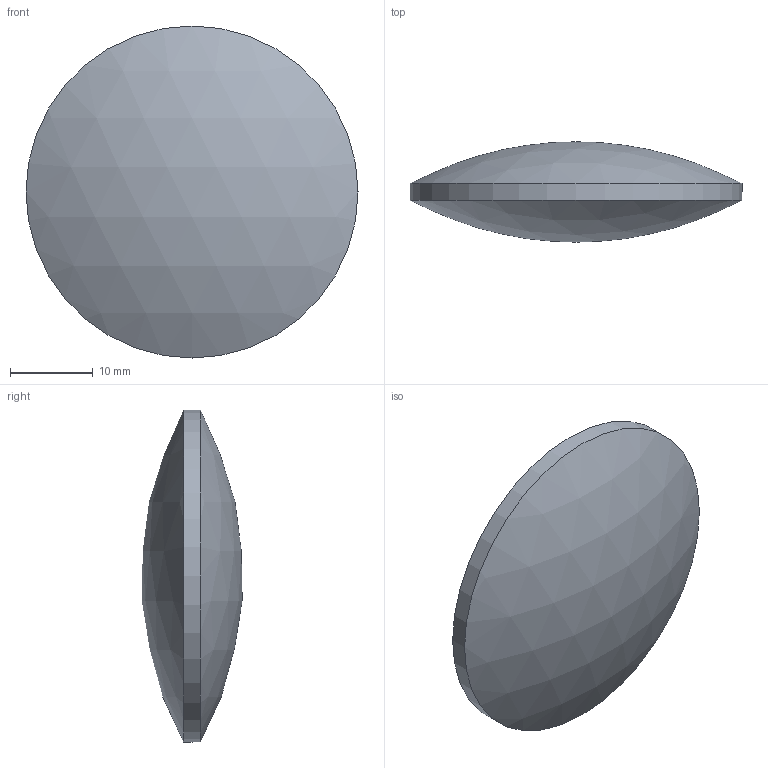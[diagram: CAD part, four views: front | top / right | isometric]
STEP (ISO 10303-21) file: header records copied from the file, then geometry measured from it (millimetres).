
FILE_DESCRIPTION((''),'2;1');
FILE_NAME('T:\Public\7_3次元データ\1図面ﾃﾞｰﾀ\7_素子\レンズ\5_球面両凸レンズ-BK7(SLB-B-P)\SLB-B-P\φ40\SLB-40B-40P\SLB-40B-40P.stp','2009-05-14T14:34:24',('okegawa'),(''),'Autodesk Inventor 2008','Autodesk Inventor 2008','');
FILE_SCHEMA(('AUTOMOTIVE_DESIGN { 1 0 10303 214 1 1 1 1 }'));
Length unit declared in the file: millimetre
Products named in the file (1): SLB-40B-40P
Bounding box: 40 x 12.09 x 40 mm (x, y, z)
Volume: 9146.1 mm3; surface area: 2934.1 mm2
Topology: 1 solids, 1 shells, 3 faces, 3 edges, 2 vertices
Faces by surface type: sphere 2, cylinder 1
Full cylindrical faces by diameter (mm): 40 x1
Entity records: 80 total; most frequent: DIRECTION 12, CARTESIAN_POINT 8, AXIS2_PLACEMENT_3D 6, ORIENTED_EDGE 4, EDGE_LOOP 4, FACE_OUTER_BOUND 3, ADVANCED_FACE 3, DIMENSIONAL_EXPONENTS 2
